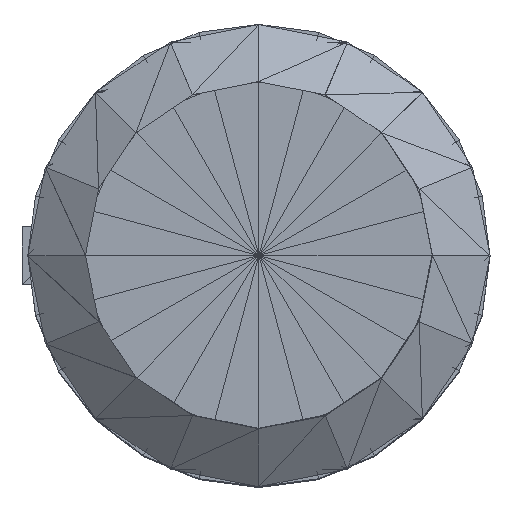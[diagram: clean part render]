
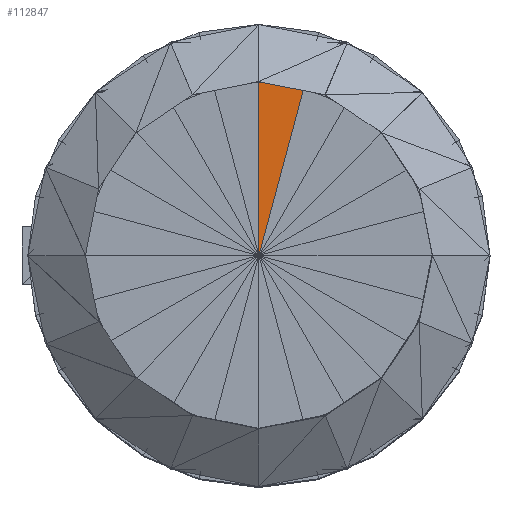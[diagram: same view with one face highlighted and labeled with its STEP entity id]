
A CAD part, top view. The second image highlights one B-rep face of the part: STEP entity #112847.
In plain terms, the highlighted planar face has unit normal (0, 0, 1).
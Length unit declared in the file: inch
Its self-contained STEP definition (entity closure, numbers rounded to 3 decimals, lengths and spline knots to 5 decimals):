
#112816=CARTESIAN_POINT('',(0.02111,0.09954,0.36877));
#112817=DIRECTION('',(0.,0.,1.));
#112818=DIRECTION('',(1.,0.,0.));
#112819=AXIS2_PLACEMENT_3D('',#112816,#112817,#112818);
#112820=PLANE('',#112819);
#112821=CARTESIAN_POINT('',(0.02669,0.09954,0.36877));
#112822=VERTEX_POINT('',#112821);
#112823=CARTESIAN_POINT('',(0.,0.10305,0.36877));
#112824=VERTEX_POINT('',#112823);
#112825=CARTESIAN_POINT('',(0.02669,0.09954,0.36877));
#112826=DIRECTION('',(-0.991,0.13,0.));
#112827=VECTOR('',#112826,0.02692);
#112828=LINE('',#112825,#112827);
#112829=EDGE_CURVE('',#112822,#112824,#112828,.T.);
#112830=ORIENTED_EDGE('',*,*,#112829,.T.);
#112831=CARTESIAN_POINT('',(0.,-0.00008,0.36875));
#112832=VERTEX_POINT('',#112831);
#112833=CARTESIAN_POINT('',(0.,-0.00008,0.36875));
#112834=DIRECTION('',(0.,1.,0.));
#112835=VECTOR('',#112834,0.10312);
#112836=LINE('',#112833,#112835);
#112837=EDGE_CURVE('',#112832,#112824,#112836,.T.);
#112838=ORIENTED_EDGE('',*,*,#112837,.F.);
#112839=CARTESIAN_POINT('',(-0.,-0.00008,0.36875));
#112840=DIRECTION('',(0.259,0.966,0.));
#112841=VECTOR('',#112840,0.10312);
#112842=LINE('',#112839,#112841);
#112843=EDGE_CURVE('',#112832,#112822,#112842,.T.);
#112844=ORIENTED_EDGE('',*,*,#112843,.T.);
#112845=EDGE_LOOP('',(#112830,#112838,#112844));
#112846=FACE_BOUND('',#112845,.T.);
#112847=ADVANCED_FACE('',(#112846),#112820,.T.);
